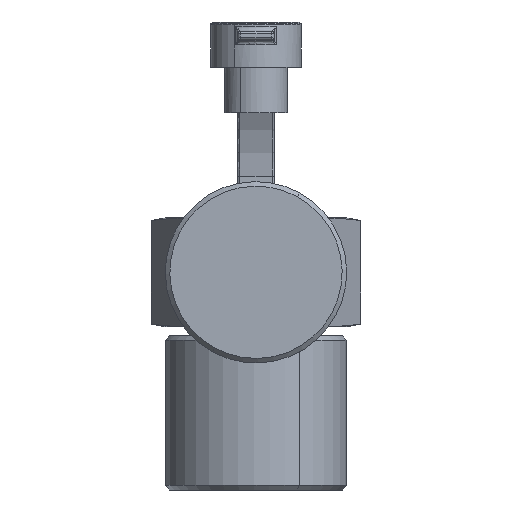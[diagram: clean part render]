
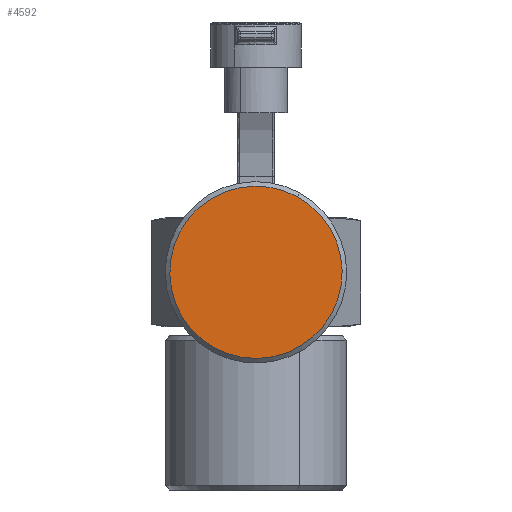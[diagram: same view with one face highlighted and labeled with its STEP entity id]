
A CAD part, left-side view. The second image highlights one B-rep face of the part: STEP entity #4592.
In plain terms, the highlighted planar face has unit normal (-1, 0, 0).
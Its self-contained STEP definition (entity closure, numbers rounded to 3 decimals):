
#4344=CARTESIAN_POINT('Vertex',(-186.,4.555,-8.337)) ;
#4347=CARTESIAN_POINT('Axis2P3D Location',(-186.,0.,0.)) ;
#4351=CARTESIAN_POINT('Vertex',(-186.,-4.555,8.337)) ;
#4371=CARTESIAN_POINT('Axis2P3D Location',(-186.,0.,0.)) ;
#4583=CARTESIAN_POINT('Axis2P3D Location',(-186.,0.,9.5)) ;
#4348=DIRECTION('Axis2P3D Direction',(1.,0.,0.)) ;
#4372=DIRECTION('Axis2P3D Direction',(1.,0.,0.)) ;
#4584=DIRECTION('Axis2P3D Direction',(1.,0.,0.)) ;
#4585=DIRECTION('Axis2P3D XDirection',(0.,1.,0.)) ;
#4349=AXIS2_PLACEMENT_3D('Circle Axis2P3D',#4347,#4348,$) ;
#4373=AXIS2_PLACEMENT_3D('Circle Axis2P3D',#4371,#4372,$) ;
#4586=AXIS2_PLACEMENT_3D('Plane Axis2P3D',#4583,#4584,#4585) ;
#4589=ORIENTED_EDGE('',*,*,#4375,.F.) ;
#4590=ORIENTED_EDGE('',*,*,#4353,.F.) ;
#4592=ADVANCED_FACE('',(#4591),#4587,.F.) ;
#4350=CIRCLE('generated circle',#4349,9.5) ;
#4374=CIRCLE('generated circle',#4373,9.5) ;
#4353=EDGE_CURVE('',#4345,#4352,#4350,.T.) ;
#4375=EDGE_CURVE('',#4352,#4345,#4374,.T.) ;
#4588=EDGE_LOOP('',(#4589,#4590)) ;
#4591=FACE_OUTER_BOUND('',#4588,.T.) ;
#4587=PLANE('Plane',#4586) ;
#4345=VERTEX_POINT('',#4344) ;
#4352=VERTEX_POINT('',#4351) ;
